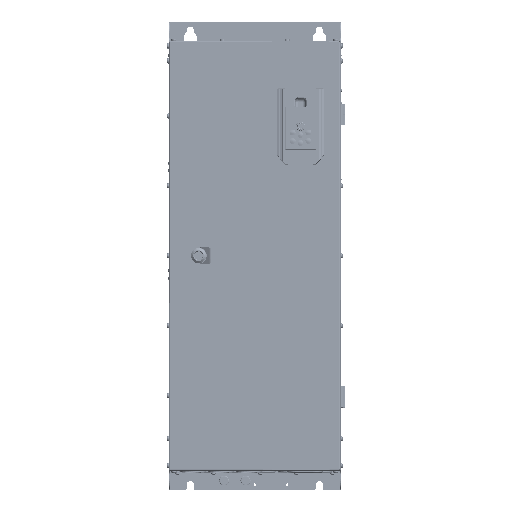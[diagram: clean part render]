
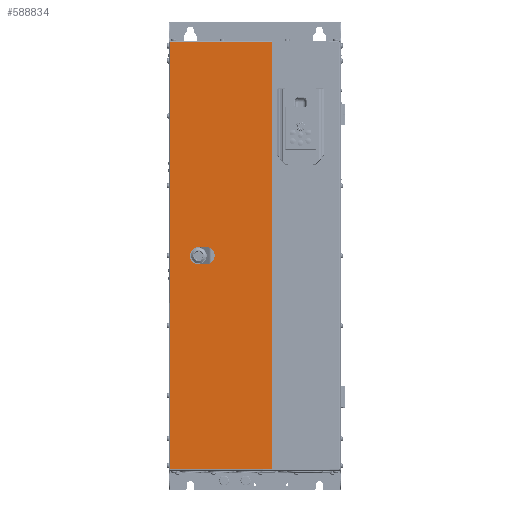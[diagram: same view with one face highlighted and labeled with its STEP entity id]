
A CAD part, top view. The second image highlights one B-rep face of the part: STEP entity #588834.
In plain terms, the highlighted planar face has unit normal (0, 0, 1).
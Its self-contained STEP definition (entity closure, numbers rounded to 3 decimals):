
#586833=DIRECTION('',(0.,-1.,0.));
#586834=VECTOR('',#586833,795.05);
#586835=CARTESIAN_POINT('',(-157.25,797.75,10.5));
#586836=LINE('',#586835,#586834);
#587205=DIRECTION('',(1.,0.,0.));
#587206=VECTOR('',#587205,189.25);
#587207=CARTESIAN_POINT('',(-157.25,2.7,10.5));
#587208=LINE('',#587207,#587206);
#587266=DIRECTION('',(1.,0.,0.));
#587267=VECTOR('',#587266,10.308);
#587268=CARTESIAN_POINT('',(-109.654,410.,10.5));
#587269=LINE('',#587268,#587267);
#587273=CARTESIAN_POINT('',(-104.5,400.,10.5));
#587274=DIRECTION('',(0.,0.,1.));
#587275=DIRECTION('',(-0.458,0.889,0.));
#587276=AXIS2_PLACEMENT_3D('',#587273,#587274,#587275);
#587281=DIRECTION('',(0.,1.,0.));
#587282=VECTOR('',#587281,10.308);
#587283=CARTESIAN_POINT('',(-114.5,394.846,10.5));
#587284=LINE('',#587283,#587282);
#587288=CARTESIAN_POINT('',(-104.5,400.,10.5));
#587289=DIRECTION('',(0.,0.,1.));
#587290=DIRECTION('',(-0.889,-0.458,0.));
#587291=AXIS2_PLACEMENT_3D('',#587288,#587289,#587290);
#587296=DIRECTION('',(-1.,0.,0.));
#587297=VECTOR('',#587296,10.308);
#587298=CARTESIAN_POINT('',(-99.346,390.,10.5));
#587299=LINE('',#587298,#587297);
#587303=CARTESIAN_POINT('',(-104.5,400.,10.5));
#587304=DIRECTION('',(0.,0.,1.));
#587305=DIRECTION('',(0.458,-0.889,0.));
#587306=AXIS2_PLACEMENT_3D('',#587303,#587304,#587305);
#587311=DIRECTION('',(0.,-1.,0.));
#587312=VECTOR('',#587311,10.308);
#587313=CARTESIAN_POINT('',(-94.5,405.154,10.5));
#587314=LINE('',#587313,#587312);
#587318=CARTESIAN_POINT('',(-104.5,400.,10.5));
#587319=DIRECTION('',(0.,0.,1.));
#587320=DIRECTION('',(0.889,0.458,0.));
#587321=AXIS2_PLACEMENT_3D('',#587318,#587319,#587320);
#587326=DIRECTION('',(0.,-1.,0.));
#587327=VECTOR('',#587326,795.05);
#587328=CARTESIAN_POINT('',(32.,797.75,10.5));
#587329=LINE('',#587328,#587327);
#587411=DIRECTION('',(1.,0.,0.));
#587412=VECTOR('',#587411,189.25);
#587413=CARTESIAN_POINT('',(-157.25,797.75,10.5));
#587414=LINE('',#587413,#587412);
#588165=CARTESIAN_POINT('',(-157.25,797.75,10.5));
#588166=CARTESIAN_POINT('',(-157.25,2.7,10.5));
#588167=VERTEX_POINT('',#588165);
#588168=VERTEX_POINT('',#588166);
#588278=CARTESIAN_POINT('',(-109.654,410.,10.5));
#588279=CARTESIAN_POINT('',(-99.346,410.,10.5));
#588280=VERTEX_POINT('',#588278);
#588281=VERTEX_POINT('',#588279);
#588282=CARTESIAN_POINT('',(-94.5,405.154,10.5));
#588283=VERTEX_POINT('',#588282);
#588284=CARTESIAN_POINT('',(-94.5,394.846,10.5));
#588285=VERTEX_POINT('',#588284);
#588286=CARTESIAN_POINT('',(-99.346,390.,10.5));
#588287=VERTEX_POINT('',#588286);
#588288=CARTESIAN_POINT('',(-109.654,390.,10.5));
#588289=VERTEX_POINT('',#588288);
#588290=CARTESIAN_POINT('',(-114.5,394.846,10.5));
#588291=VERTEX_POINT('',#588290);
#588292=CARTESIAN_POINT('',(-114.5,405.154,10.5));
#588293=VERTEX_POINT('',#588292);
#588310=CARTESIAN_POINT('',(32.,797.75,10.5));
#588311=CARTESIAN_POINT('',(32.,2.7,10.5));
#588312=VERTEX_POINT('',#588310);
#588313=VERTEX_POINT('',#588311);
#588804=CARTESIAN_POINT('',(-159.5,800.,10.5));
#588805=DIRECTION('',(0.,0.,1.));
#588806=DIRECTION('',(0.,-1.,0.));
#588807=AXIS2_PLACEMENT_3D('',#588804,#588805,#588806);
#588808=PLANE('',#588807);
#588809=ORIENTED_EDGE('',*,*,#588795,.T.);
#588810=ORIENTED_EDGE('',*,*,#588734,.F.);
#588811=ORIENTED_EDGE('',*,*,#588482,.F.);
#588813=ORIENTED_EDGE('',*,*,#588812,.T.);
#588814=EDGE_LOOP('',(#588809,#588810,#588811,#588813));
#588815=FACE_OUTER_BOUND('',#588814,.F.);
#588817=ORIENTED_EDGE('',*,*,#588816,.F.);
#588819=ORIENTED_EDGE('',*,*,#588818,.T.);
#588821=ORIENTED_EDGE('',*,*,#588820,.F.);
#588823=ORIENTED_EDGE('',*,*,#588822,.T.);
#588825=ORIENTED_EDGE('',*,*,#588824,.F.);
#588827=ORIENTED_EDGE('',*,*,#588826,.T.);
#588829=ORIENTED_EDGE('',*,*,#588828,.F.);
#588831=ORIENTED_EDGE('',*,*,#588830,.T.);
#588832=EDGE_LOOP('',(#588817,#588819,#588821,#588823,#588825,#588827,#588829,
#588831));
#588833=FACE_BOUND('',#588832,.F.);
#588834=ADVANCED_FACE('',(#588815,#588833),#588808,.T.);
#587277=CIRCLE('',#587276,11.25);
#587292=CIRCLE('',#587291,11.25);
#587307=CIRCLE('',#587306,11.25);
#587322=CIRCLE('',#587321,11.25);
#588482=EDGE_CURVE('',#588167,#588168,#586836,.T.);
#588734=EDGE_CURVE('',#588168,#588313,#587208,.T.);
#588795=EDGE_CURVE('',#588312,#588313,#587329,.T.);
#588812=EDGE_CURVE('',#588167,#588312,#587414,.T.);
#588816=EDGE_CURVE('',#588280,#588281,#587269,.T.);
#588818=EDGE_CURVE('',#588280,#588293,#587277,.T.);
#588820=EDGE_CURVE('',#588291,#588293,#587284,.T.);
#588822=EDGE_CURVE('',#588291,#588289,#587292,.T.);
#588824=EDGE_CURVE('',#588287,#588289,#587299,.T.);
#588826=EDGE_CURVE('',#588287,#588285,#587307,.T.);
#588828=EDGE_CURVE('',#588283,#588285,#587314,.T.);
#588830=EDGE_CURVE('',#588283,#588281,#587322,.T.);
